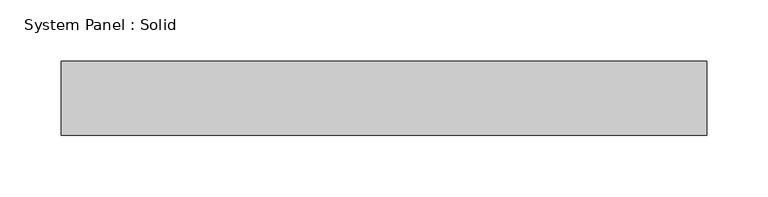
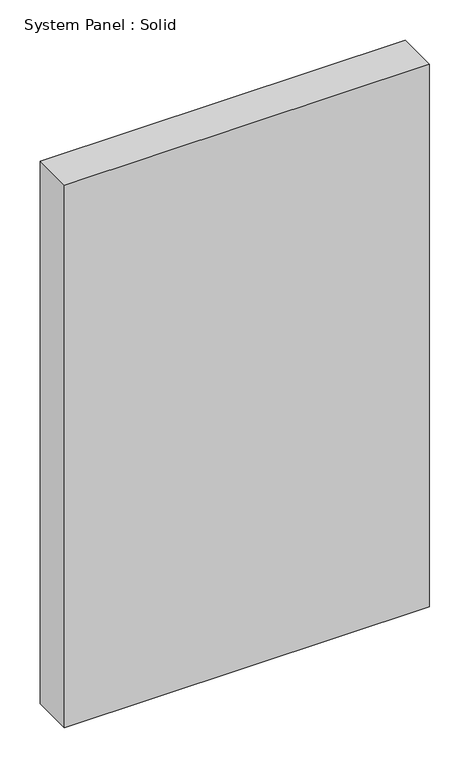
"""IFC4 building model written with IfcOpenShell, lengths in millimetres: plate geometry, System Panel : Solid."""

from ifc_helpers import new_model, si_unit, origin, origin_with_axes, place, context, project, spatial, polyline, outline, extrude, source, transform, mapped, element, save


def system_panel_solid_388c8a63(model_context):
    return source(origin(), model_context, "Body", "SweptSolid", [
        extrude(outline(polyline([(262.5000001, -49.5), (-262.5000001, -49.5), (-262.5000001, 10.5), (262.5000001, 10.5), (262.5000001, -49.5)])), origin_with_axes(), (0.0, 0.0, 1.0), 825.0),
    ])


if __name__ == "__main__":
    model = new_model("IFC4")
    model_context = context("Model", 3, world=origin())
    ifc_project = project(units=[si_unit("LENGTHUNIT", "METRE", prefix="MILLI")], contexts=[model_context])
    site = spatial("IfcSite", under=ifc_project)
    building = spatial("IfcBuilding", under=site)
    placement = place(None, origin())
    system_panel_solid_shape = system_panel_solid_388c8a63(model_context)
    element("IfcPlate", 1, ObjectType="System Panel : Solid", at=placement, inside=building, context=model_context, shape_type="MappedRepresentation", body=[
        mapped(system_panel_solid_shape, transform((0.0, 0.0, 0.0), x_axis=(1.0, 0.0, 0.0), y_axis=(0.0, 1.0, 0.0), z_axis=(0.0, 0.0, 1.0))),
    ])
    save(model, "model.ifc")
